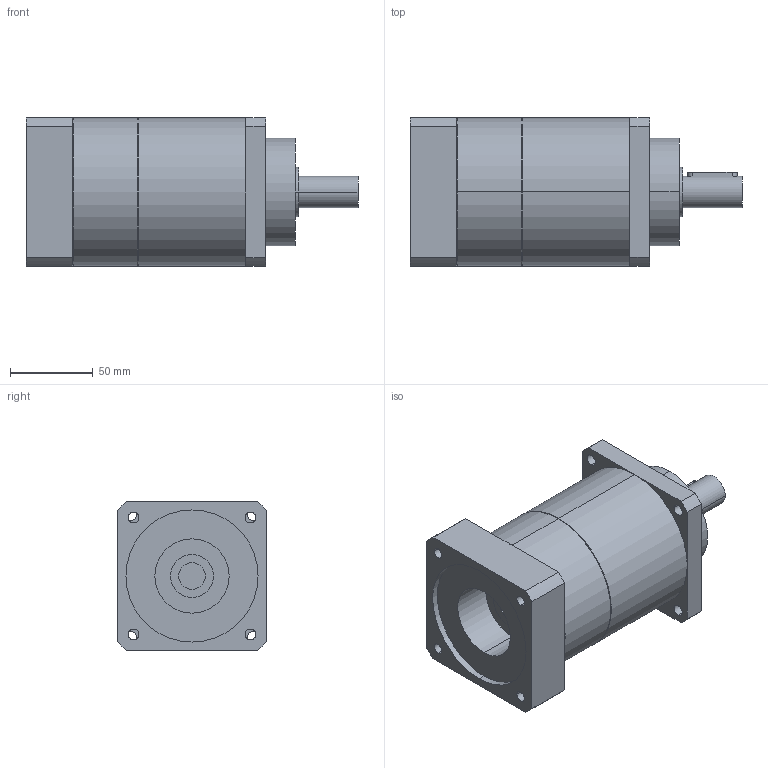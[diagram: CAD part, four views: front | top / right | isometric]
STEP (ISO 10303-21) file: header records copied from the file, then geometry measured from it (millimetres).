
FILE_DESCRIPTION(('CoCreate Modeling STEP Export'),'2;1');
FILE_NAME('GPT90_ig-9-12-16-20-25-28-35-40-50-70-100_19_B5T_15.87_P28.stp','2015-02-04T11:31:34',(''),(''),'CoCreate Modeling STEP processor for AP214 (Solid Model)','CoCreate Modeling 16.00C 25-Feb-2009 (C) Parametric Technology GmbH','');
FILE_SCHEMA(('AUTOMOTIVE_DESIGN { 1 0 10303 214 1 1 1 1 }'));
Length unit declared in the file: millimetre
Products named in the file (2): GPT90_ig-9-12-16-20-25-28-35-40-50-70-100_19_B5T_15.87_P28
Assembly tree (1 placements, depth 2):
  GPT90_ig-9-12-16-20-25-28-35-40-50-70-100_19_B5T_15.87_P28
    GPT90_ig-9-12-16-20-25-28-35-40-50-70-100_19_B5T_15.87_P28
Bounding box: 201 x 90 x 90 mm (x, y, z)
Volume: 991816.6 mm3; surface area: 79125.6 mm2
Topology: 1 solids, 1 shells, 77 faces, 206 edges, 141 vertices
Faces by surface type: cylinder 46, plane 27, cone 4
Entity records: 2596 total; most frequent: CARTESIAN_POINT 742, ORIENTED_EDGE 412, DIRECTION 324, EDGE_CURVE 206, VERTEX_POINT 141, AXIS2_PLACEMENT_3D 120, EDGE_LOOP 103, VECTOR 84
